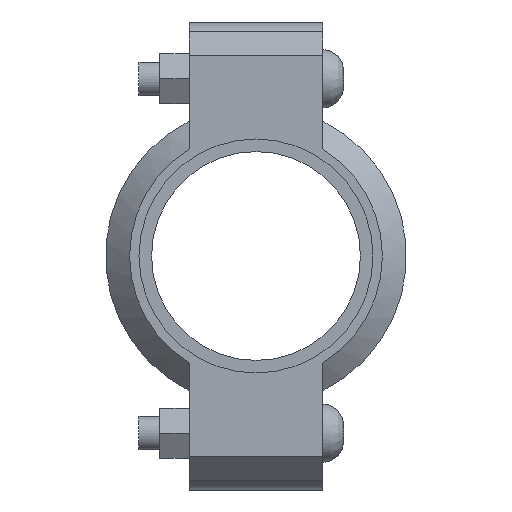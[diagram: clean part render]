
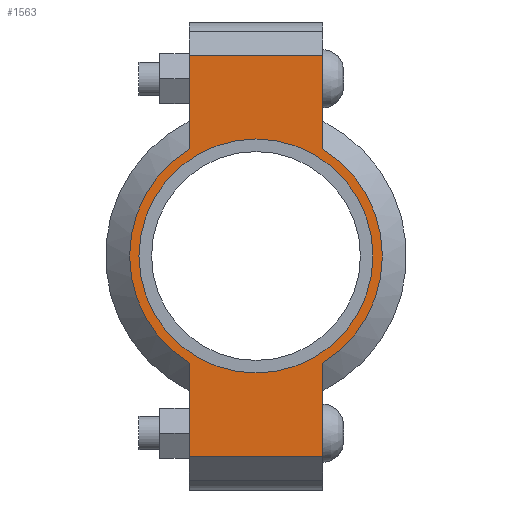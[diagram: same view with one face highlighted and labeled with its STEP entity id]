
A CAD part, left-side view. The second image highlights one B-rep face of the part: STEP entity #1563.
In plain terms, the highlighted planar face has unit normal (-1, 0, 0) as drawn and (0, 0, 1) by its records, which use the part's own axes.
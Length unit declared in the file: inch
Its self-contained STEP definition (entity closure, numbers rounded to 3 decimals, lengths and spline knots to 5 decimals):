
#186=LINE('',#2687,#279);
#194=LINE('',#2723,#287);
#201=LINE('',#2744,#294);
#210=LINE('',#2776,#303);
#211=LINE('',#2780,#304);
#212=LINE('',#2782,#305);
#279=VECTOR('',#2183,0.3937);
#287=VECTOR('',#2199,0.3937);
#294=VECTOR('',#2218,0.3937);
#303=VECTOR('',#2243,0.3937);
#304=VECTOR('',#2248,0.3937);
#305=VECTOR('',#2249,0.3937);
#361=FACE_BOUND('',#539,.T.);
#433=FACE_OUTER_BOUND('',#538,.T.);
#538=EDGE_LOOP('',(#1303,#1304,#1305,#1306,#1307,#1308,#1309,#1310));
#539=EDGE_LOOP('',(#1311));
#611=CIRCLE('',#1745,1.75);
#637=CIRCLE('',#1804,1.89);
#638=CIRCLE('',#1805,1.89);
#703=VERTEX_POINT('',#2503);
#746=VERTEX_POINT('',#2684);
#747=VERTEX_POINT('',#2686);
#758=VERTEX_POINT('',#2718);
#759=VERTEX_POINT('',#2722);
#766=VERTEX_POINT('',#2741);
#767=VERTEX_POINT('',#2743);
#777=VERTEX_POINT('',#2779);
#778=VERTEX_POINT('',#2781);
#859=EDGE_CURVE('',#703,#703,#611,.T.);
#920=EDGE_CURVE('',#747,#746,#186,.T.);
#934=EDGE_CURVE('',#759,#758,#194,.T.);
#944=EDGE_CURVE('',#767,#766,#201,.T.);
#959=EDGE_CURVE('',#759,#746,#210,.T.);
#960=EDGE_CURVE('',#758,#767,#637,.T.);
#961=EDGE_CURVE('',#777,#766,#211,.T.);
#962=EDGE_CURVE('',#777,#778,#212,.T.);
#963=EDGE_CURVE('',#778,#747,#638,.T.);
#1303=ORIENTED_EDGE('',*,*,#959,.F.);
#1304=ORIENTED_EDGE('',*,*,#934,.T.);
#1305=ORIENTED_EDGE('',*,*,#960,.T.);
#1306=ORIENTED_EDGE('',*,*,#944,.T.);
#1307=ORIENTED_EDGE('',*,*,#961,.F.);
#1308=ORIENTED_EDGE('',*,*,#962,.T.);
#1309=ORIENTED_EDGE('',*,*,#963,.T.);
#1310=ORIENTED_EDGE('',*,*,#920,.T.);
#1311=ORIENTED_EDGE('',*,*,#859,.T.);
#1404=PLANE('',#1803);
#1563=ADVANCED_FACE('',(#433,#361),#1404,.T.);
#1745=AXIS2_PLACEMENT_3D('',#2505,#2059,#2060);
#1803=AXIS2_PLACEMENT_3D('',#2777,#2244,#2245);
#1804=AXIS2_PLACEMENT_3D('',#2778,#2246,#2247);
#1805=AXIS2_PLACEMENT_3D('',#2783,#2250,#2251);
#2059=DIRECTION('center_axis',(0.,0.,-1.));
#2060=DIRECTION('ref_axis',(-1.,0.,0.));
#2183=DIRECTION('',(-1.,0.,0.));
#2199=DIRECTION('',(1.,0.,0.));
#2218=DIRECTION('',(1.,0.,0.));
#2243=DIRECTION('',(0.,1.,0.));
#2244=DIRECTION('center_axis',(0.,0.,1.));
#2245=DIRECTION('ref_axis',(1.,0.,0.));
#2246=DIRECTION('center_axis',(0.,0.,1.));
#2247=DIRECTION('ref_axis',(-1.,0.,0.));
#2248=DIRECTION('',(0.,-1.,0.));
#2249=DIRECTION('',(-1.,0.,0.));
#2250=DIRECTION('center_axis',(0.,0.,1.));
#2251=DIRECTION('ref_axis',(-1.,0.,0.));
#2503=CARTESIAN_POINT('',(1.75,0.,0.94));
#2505=CARTESIAN_POINT('Origin',(0.,0.,0.94));
#2684=CARTESIAN_POINT('',(-3.,1.,0.94));
#2686=CARTESIAN_POINT('',(-1.60378,1.,0.94));
#2687=CARTESIAN_POINT('',(-3.5,1.,0.94));
#2718=CARTESIAN_POINT('',(-1.60378,-1.,0.94));
#2722=CARTESIAN_POINT('',(-3.,-1.,0.94));
#2723=CARTESIAN_POINT('',(3.5,-1.,0.94));
#2741=CARTESIAN_POINT('',(3.,-1.,0.94));
#2743=CARTESIAN_POINT('',(1.60378,-1.,0.94));
#2744=CARTESIAN_POINT('',(3.5,-1.,0.94));
#2776=CARTESIAN_POINT('',(-3.,0.5,0.94));
#2777=CARTESIAN_POINT('Origin',(0.,0.,
0.94));
#2778=CARTESIAN_POINT('Origin',(0.,0.,0.94));
#2779=CARTESIAN_POINT('',(3.,1.,0.94));
#2780=CARTESIAN_POINT('',(3.,-0.5,0.94));
#2781=CARTESIAN_POINT('',(1.60378,1.,0.94));
#2782=CARTESIAN_POINT('',(-3.5,1.,0.94));
#2783=CARTESIAN_POINT('Origin',(0.,0.,0.94));
